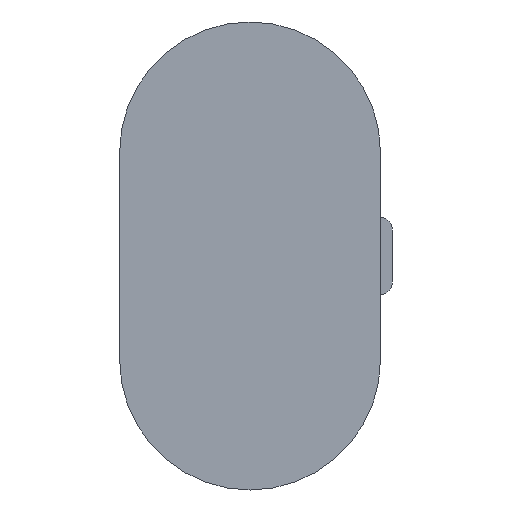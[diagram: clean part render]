
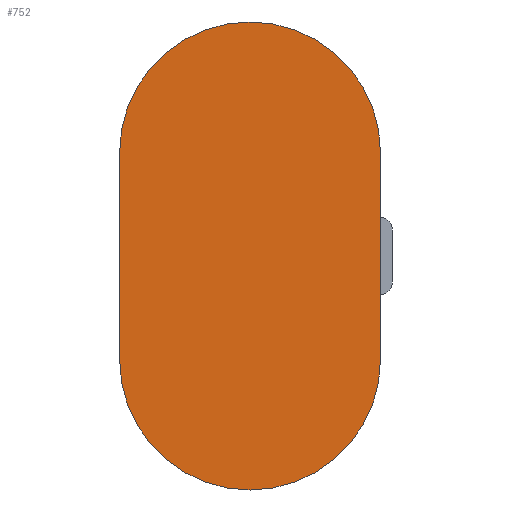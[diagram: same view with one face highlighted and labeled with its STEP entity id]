
A CAD part, front view. The second image highlights one B-rep face of the part: STEP entity #752.
In plain terms, the highlighted planar face has unit normal (0, -1, 0).
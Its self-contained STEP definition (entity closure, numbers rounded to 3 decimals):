
#752=ADVANCED_FACE('',(#996),#5448,.T.);
#996=FACE_OUTER_BOUND('',#1240,.T.);
#1240=EDGE_LOOP('',(#2246,#2247,#2248,#2249));
#2246=ORIENTED_EDGE('',*,*,#3238,.T.);
#2247=ORIENTED_EDGE('',*,*,#3239,.T.);
#2248=ORIENTED_EDGE('',*,*,#3240,.T.);
#2249=ORIENTED_EDGE('',*,*,#3241,.T.);
#3238=EDGE_CURVE('',#5302,#5303,#4102,.T.);
#3239=EDGE_CURVE('',#5303,#5304,#3874,.T.);
#3240=EDGE_CURVE('',#5304,#5305,#4103,.T.);
#3241=EDGE_CURVE('',#5305,#5302,#3875,.T.);
#3874=B_SPLINE_CURVE_WITH_KNOTS('',1,(#9968,#9969),.UNSPECIFIED.,.F.,.F.,
(2,2),(3156.194,3556.195),.UNSPECIFIED.);
#3875=B_SPLINE_CURVE_WITH_KNOTS('',1,(#9973,#9974),.UNSPECIFIED.,.F.,.F.,
(2,2),(4341.593,4741.593),.UNSPECIFIED.);
#4102=TRIMMED_CURVE($,#4358,(#9966),(#9967),.T.,.CARTESIAN.);
#4103=TRIMMED_CURVE($,#4359,(#9971),(#9972),.T.,.CARTESIAN.);
#4358=CIRCLE('',#5981,252.);
#4359=CIRCLE('',#5982,252.);
#5302=VERTEX_POINT('',#9961);
#5303=VERTEX_POINT('',#9962);
#5304=VERTEX_POINT('',#9963);
#5305=VERTEX_POINT('',#9964);
#5448=PLANE('',#5980);
#5980=AXIS2_PLACEMENT_3D('',#9960,#6685,$);
#5981=AXIS2_PLACEMENT_3D($,#9965,#6686,#6687);
#5982=AXIS2_PLACEMENT_3D($,#9970,#6688,#6689);
#6685=DIRECTION('',(0.,-1.,0.));
#6686=DIRECTION('',(0.,-1.,0.));
#6687=DIRECTION('',(1.,0.,0.));
#6688=DIRECTION('',(0.,-1.,0.));
#6689=DIRECTION('',(-1.,0.,0.));
#9960=CARTESIAN_POINT('',(-6146.801,-15303.761,465.915));
#9961=CARTESIAN_POINT('',(-5579.801,-15303.761,1230.915));
#9962=CARTESIAN_POINT('',(-6083.801,-15303.761,1230.915));
#9963=CARTESIAN_POINT('',(-6083.801,-15303.761,830.915));
#9964=CARTESIAN_POINT('',(-5579.801,-15303.761,830.915));
#9965=CARTESIAN_POINT('',(-5831.801,-15303.761,1230.915));
#9966=CARTESIAN_POINT('',(-5579.801,-15303.761,1230.915));
#9967=CARTESIAN_POINT('',(-6083.801,-15303.761,1230.915));
#9968=CARTESIAN_POINT('',(-6083.801,-15303.761,1230.915));
#9969=CARTESIAN_POINT('',(-6083.801,-15303.761,830.915));
#9970=CARTESIAN_POINT('',(-5831.801,-15303.761,830.915));
#9971=CARTESIAN_POINT('',(-6083.801,-15303.761,830.915));
#9972=CARTESIAN_POINT('',(-5579.801,-15303.761,830.915));
#9973=CARTESIAN_POINT('',(-5579.801,-15303.761,830.915));
#9974=CARTESIAN_POINT('',(-5579.801,-15303.761,1230.915));
